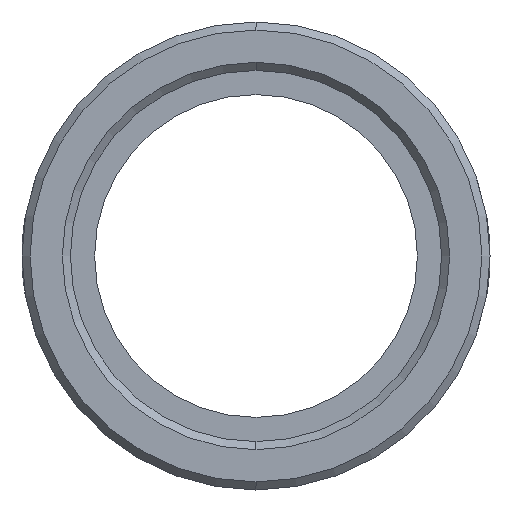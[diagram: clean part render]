
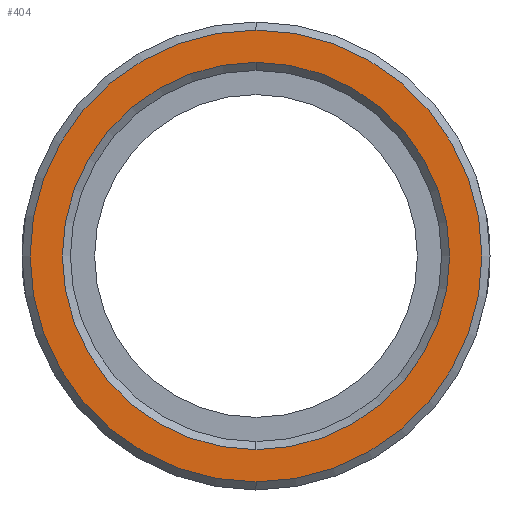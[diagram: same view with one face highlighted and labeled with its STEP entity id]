
A CAD part, left-side view. The second image highlights one B-rep face of the part: STEP entity #404.
In plain terms, the highlighted planar face has unit normal (-1, 0, 0).
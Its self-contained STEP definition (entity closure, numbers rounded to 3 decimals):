
#36 = CIRCLE ( 'NONE', #336, 14. ) ;
#50 = CARTESIAN_POINT ( 'NONE',  ( 0., 0., -12. ) ) ;
#60 = CIRCLE ( 'NONE', #1427, 12. ) ;
#125 = VERTEX_POINT ( 'NONE', #1345 ) ;
#131 = PLANE ( 'NONE',  #1089 ) ;
#146 = CARTESIAN_POINT ( 'NONE',  ( 0., 11.5, 0. ) ) ;
#147 = DIRECTION ( 'NONE',  ( 1., 0., 0. ) ) ;
#148 = DIRECTION ( 'NONE',  ( 0., 0., -1. ) ) ;
#205 = CIRCLE ( 'NONE', #1368, 14. ) ;
#239 = CIRCLE ( 'NONE', #1228, 12. ) ;
#336 = AXIS2_PLACEMENT_3D ( 'NONE', #1277, #492, #545 ) ;
#404 = ADVANCED_FACE ( 'NONE', ( #529, #513 ), #131, .F. ) ;
#413 = DIRECTION ( 'NONE',  ( -1., 0., 0. ) ) ;
#492 = DIRECTION ( 'NONE',  ( -1., 0., 0. ) ) ;
#503 = ORIENTED_EDGE ( 'NONE', *, *, #1192, .T. ) ;
#513 = FACE_OUTER_BOUND ( 'NONE', #1207, .T. ) ;
#529 = FACE_BOUND ( 'NONE', #640, .T. ) ;
#545 = DIRECTION ( 'NONE',  ( 0., 0., -1. ) ) ;
#624 = CARTESIAN_POINT ( 'NONE',  ( 0., 0., 14. ) ) ;
#640 = EDGE_LOOP ( 'NONE', ( #1293, #1291 ) ) ;
#847 = VERTEX_POINT ( 'NONE', #1184 ) ;
#927 = EDGE_CURVE ( 'NONE', #125, #1109, #60, .T. ) ;
#1089 = AXIS2_PLACEMENT_3D ( 'NONE', #146, #147, #148 ) ;
#1092 = CARTESIAN_POINT ( 'NONE',  ( 0., 0., 0. ) ) ;
#1109 = VERTEX_POINT ( 'NONE', #50 ) ;
#1116 = DIRECTION ( 'NONE',  ( 0., 0., -1. ) ) ;
#1136 = CARTESIAN_POINT ( 'NONE',  ( 0., 0., 0. ) ) ;
#1179 = DIRECTION ( 'NONE',  ( 0., 0., -1. ) ) ;
#1181 = DIRECTION ( 'NONE',  ( 1., 0., 0. ) ) ;
#1184 = CARTESIAN_POINT ( 'NONE',  ( 0., 0., -14. ) ) ;
#1191 = ORIENTED_EDGE ( 'NONE', *, *, #1225, .T. ) ;
#1192 = EDGE_CURVE ( 'NONE', #1469, #847, #205, .T. ) ;
#1207 = EDGE_LOOP ( 'NONE', ( #1191, #503 ) ) ;
#1216 = EDGE_CURVE ( 'NONE', #1109, #125, #239, .T. ) ;
#1225 = EDGE_CURVE ( 'NONE', #847, #1469, #36, .T. ) ;
#1228 = AXIS2_PLACEMENT_3D ( 'NONE', #1136, #1181, #1179 ) ;
#1277 = CARTESIAN_POINT ( 'NONE',  ( 0., 0., 0. ) ) ;
#1291 = ORIENTED_EDGE ( 'NONE', *, *, #1216, .T. ) ;
#1293 = ORIENTED_EDGE ( 'NONE', *, *, #927, .T. ) ;
#1345 = CARTESIAN_POINT ( 'NONE',  ( 0., 0., 12. ) ) ;
#1368 = AXIS2_PLACEMENT_3D ( 'NONE', #1092, #413, #1116 ) ;
#1384 = CARTESIAN_POINT ( 'NONE',  ( 0., 0., 0. ) ) ;
#1386 = DIRECTION ( 'NONE',  ( 1., 0., 0. ) ) ;
#1389 = DIRECTION ( 'NONE',  ( 0., 0., -1. ) ) ;
#1427 = AXIS2_PLACEMENT_3D ( 'NONE', #1384, #1386, #1389 ) ;
#1469 = VERTEX_POINT ( 'NONE', #624 ) ;
